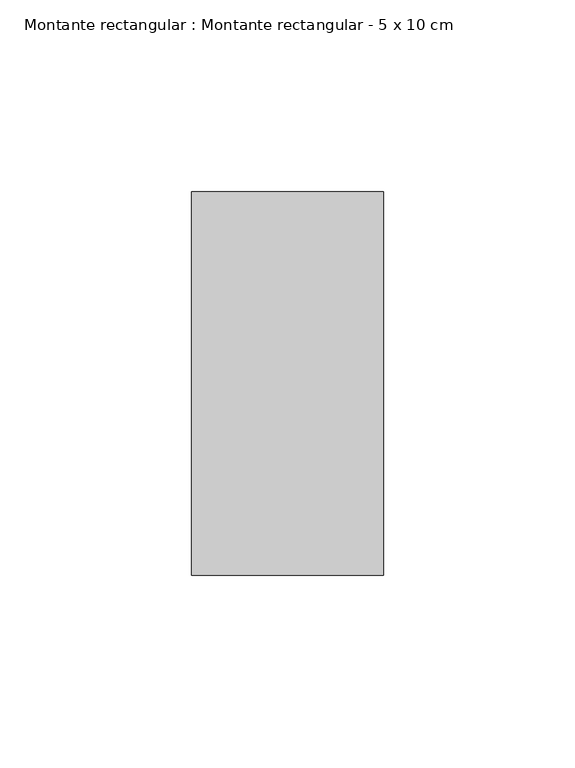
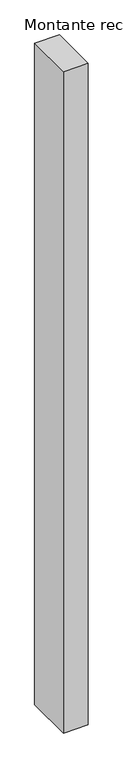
"""IFC4 building model written with IfcOpenShell, lengths in millimetres: member geometry, Montante rectangular : Montante rectangular - 5 x 10 cm."""

from ifc_helpers import new_model, si_unit, frame, origin, place, context, project, spatial, polyline, outline, extrude, source, transform, mapped, element, save


def montante_rectangular_montante_rectangular_5_x_10_cm_b2fd557d(model_context):
    return source(origin(), model_context, "Body", "SweptSolid", [
        extrude(outline(polyline([(-50.0, 50.0), (0.0, 50.0), (0.0, -50.0), (-50.0, -50.0), (-50.0, 50.0)])), frame((0.0, 0.0, -1410.0), z_axis=(0.0, 0.0, 1.0), x_axis=(1.0, 0.0, 0.0)), (0.0, 0.0, 1.0), 1410.0),
    ])


if __name__ == "__main__":
    model = new_model("IFC4")
    model_context = context("Model", 3, world=origin())
    ifc_project = project(units=[si_unit("LENGTHUNIT", "METRE", prefix="MILLI")], contexts=[model_context])
    site = spatial("IfcSite", under=ifc_project)
    building = spatial("IfcBuilding", under=site)
    placement = place(None, origin())
    montante_rectangular_montante_rectangular_5_x_10_cm_shape = montante_rectangular_montante_rectangular_5_x_10_cm_b2fd557d(model_context)
    element("IfcMember", 1, ObjectType="Montante rectangular : Montante rectangular - 5 x 10 cm", at=placement, inside=building, context=model_context, shape_type="MappedRepresentation", body=[
        mapped(montante_rectangular_montante_rectangular_5_x_10_cm_shape, transform((0.0, 0.0, 0.0), x_axis=(1.0, 0.0, 0.0), y_axis=(0.0, 1.0, 0.0), z_axis=(0.0, 0.0, 1.0))),
    ])
    save(model, "model.ifc")
